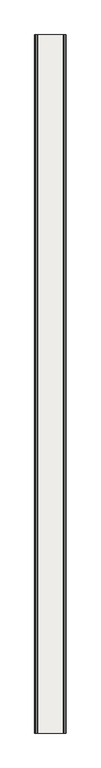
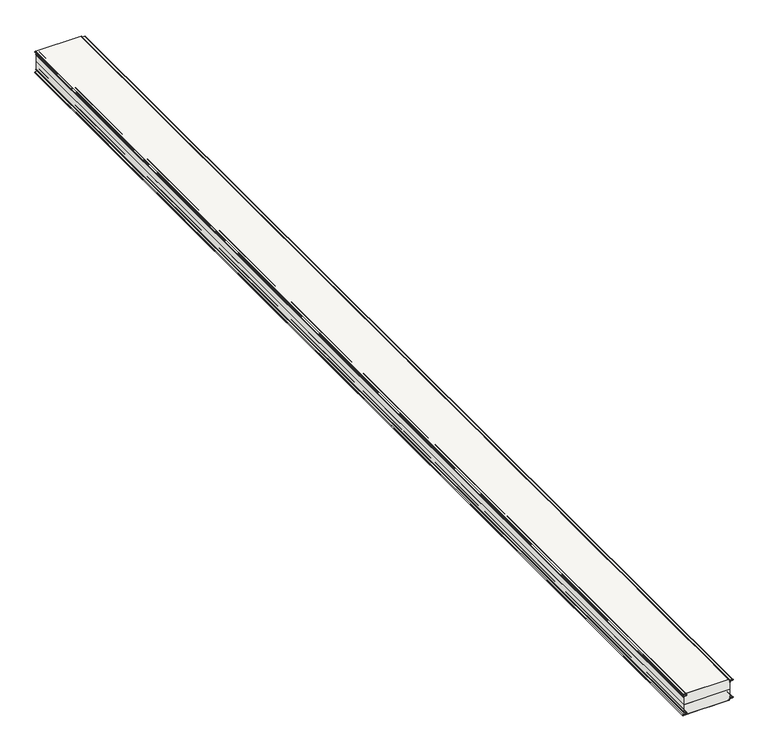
"""IFC4 building model written with IfcOpenShell, lengths in millimetres: covering geometry, Płyta warstwowa ścienna SPW-S CORE PIR (pojedynczy arkusz) : -."""

from ifc_helpers import new_model, si_unit, point, frame, frame_2d, origin, place, context, project, spatial, polyline, circle_curve, trimmed, segment, composite_curve, outline, extrude, source, transform, mapped, element, save
from ifc_brep_helpers import plane_surface, cylinder_surface, revolved_surface, advanced_brep


def covering_3d8cfdf2(model_context):
    return source(origin(), model_context, "Body", "SolidModel", [
        extrude(outline(composite_curve([segment(trimmed(circle_curve(frame_2d((-117.0000044, -287.1173519)), 1.9999956), [point((-119.0, -287.1173519))], [point((-115.0012272, -287.1871542))], True, "CARTESIAN"), True, "CONTINUOUS"), segment(polyline([(-115.0012272, -287.1871542), (-114.4480424, -271.3468067)]), True, "CONTINUOUS"), segment(trimmed(circle_curve(frame_2d((-109.950784, -271.5038623)), 4.5), [point((-114.4480424, -271.3468067))], [point((-105.4569506, -271.2683583))], False, "CARTESIAN"), True, "CONTINUOUS"), segment(polyline([(-105.4569506, -271.2683583), (-104.890434, -282.078501)]), True, "CONTINUOUS"), segment(trimmed(circle_curve(frame_2d((-103.3924895, -281.9999997)), 1.5), [point((-104.890434, -282.078501))], [point((-103.3924895, -283.4999997))], True, "CARTESIAN"), True, "CONTINUOUS"), segment(polyline([(-103.3924895, -283.4999997), (-100.8924895, -283.4999997), (-100.8924895, -284.4999997), (-103.3924895, -284.4999997)]), True, "CONTINUOUS"), segment(trimmed(circle_curve(frame_2d((-103.3924895, -281.9999997)), 2.5), [point((-103.3924895, -284.4999997))], [point((-105.8890636, -282.1308352))], False, "CARTESIAN"), True, "CONTINUOUS"), segment(polyline([(-105.8890636, -282.1308352), (-106.4555803, -271.3206925)]), True, "CONTINUOUS"), segment(trimmed(circle_curve(frame_2d((-109.950784, -271.5038623)), 3.5), [point((-106.4555803, -271.3206925))], [point((-113.4486516, -271.3817079))], True, "CARTESIAN"), True, "CONTINUOUS"), segment(polyline([(-113.4486516, -271.3817079), (-114.0018364, -287.2220554)]), True, "CONTINUOUS"), segment(trimmed(circle_curve(frame_2d((-117.0000044, -287.1173519)), 2.9999956), [point((-114.0018364, -287.2220554))], [point((-120.0, -287.1173519))], False, "CARTESIAN"), True, "CONTINUOUS"), segment(polyline([(-120.0, -287.1173519), (-120.0, -284.9999997), (-119.0, -284.9999997), (-119.0, -287.1173519)]), True, "CONTINUOUS")], self_intersect=False)), frame((0.0, -6000.0, 0.0), z_axis=(0.0, 1.0, 0.0), x_axis=(0.0, 0.0, 1.0)), (0.0, 0.0, 1.0), 6000.0),
        extrude(outline(composite_curve([segment(polyline([(-1.0, -287.1173519), (-1.0, -284.9999997), (0.0, -284.9999997), (0.0, -287.1173519)]), True, "CONTINUOUS"), segment(trimmed(circle_curve(frame_2d((-2.9999956, -287.1173519)), 2.9999956), [point((0.0, -287.1173519))], [point((-5.9981636, -287.2220554))], False, "CARTESIAN"), True, "CONTINUOUS"), segment(polyline([(-5.9981636, -287.2220554), (-6.5513484, -271.3817079)]), True, "CONTINUOUS"), segment(trimmed(circle_curve(frame_2d((-10.049216, -271.5038623)), 3.5), [point((-6.5513484, -271.3817079))], [point((-13.5444197, -271.3206925))], True, "CARTESIAN"), True, "CONTINUOUS"), segment(polyline([(-13.5444197, -271.3206925), (-14.1109364, -282.1308352)]), True, "CONTINUOUS"), segment(trimmed(circle_curve(frame_2d((-16.6075105, -281.9999997)), 2.5), [point((-14.1109364, -282.1308352))], [point((-16.6075105, -284.4999997))], False, "CARTESIAN"), True, "CONTINUOUS"), segment(polyline([(-16.6075105, -284.4999997), (-19.1075105, -284.4999997), (-19.1075105, -283.4999997), (-16.6075105, -283.4999997)]), True, "CONTINUOUS"), segment(trimmed(circle_curve(frame_2d((-16.6075105, -281.9999997)), 1.5), [point((-16.6075105, -283.4999997))], [point((-15.109566, -282.078501))], True, "CARTESIAN"), True, "CONTINUOUS"), segment(polyline([(-15.109566, -282.078501), (-14.5430494, -271.2683583)]), True, "CONTINUOUS"), segment(trimmed(circle_curve(frame_2d((-10.049216, -271.5038623)), 4.5), [point((-14.5430494, -271.2683583))], [point((-5.5519576, -271.3468067))], False, "CARTESIAN"), True, "CONTINUOUS"), segment(polyline([(-5.5519576, -271.3468067), (-4.9987728, -287.1871542)]), True, "CONTINUOUS"), segment(trimmed(circle_curve(frame_2d((-2.9999956, -287.1173519)), 1.9999956), [point((-4.9987728, -287.1871542))], [point((-1.0, -287.1173519))], True, "CARTESIAN"), True, "CONTINUOUS")], self_intersect=False)), frame((0.0, -6000.0, 0.0), z_axis=(0.0, 1.0, 0.0), x_axis=(0.0, 0.0, 1.0)), (0.0, 0.0, 1.0), 6000.0),
        advanced_brep(
        [(-43.1186621, 0.0, -119.0), (-41.1186621, 0.0, -117.0), (-41.1186621, 0.0, -114.93), (-39.1884611, 0.0, -112.9312183), (-22.5992017, 0.0, -112.3519086), (-22.43132, 0.0, -107.5379716), (-33.6570079, 0.0, -106.9496582), (-36.5, 0.0, -103.9537696), (-36.5, 0.0, -101.4537696), (-35.5, 0.0, -101.4537696), (-35.5, 0.0, -103.9537696), (-33.6046719, 0.0, -105.9510287), (-22.6550677, 0.0, -106.5248731), (-22.6835162, 0.0, -113.3501612), (-39.1535616, 0.0, -113.9306092), (-40.1186621, 0.0, -114.93), (-40.1186621, 0.0, -117.0), (-43.1186621, 0.0, -120.0), (-90.0275239, 0.0, -120.0), (-91.4098003, 0.0, -119.6), (-135.6275239, 0.0, -119.6), (-137.0098003, 0.0, -120.0), (-181.2275239, 0.0, -120.0), (-182.6098003, 0.0, -119.6), (-226.8275239, 0.0, -119.6), (-228.2098003, 0.0, -120.0), (-272.4275239, 0.0, -120.0), (-273.8098003, 0.0, -119.6), (-284.9999997, 0.0, -119.6), (-284.9999997, 0.0, -119.0), (-273.8098003, -6000.0, -119.6), (-272.4275239, -6000.0, -120.0), (-228.2098003, -6000.0, -120.0), (-226.8275239, -6000.0, -119.6), (-182.6098003, -6000.0, -119.6), (-181.2275239, -6000.0, -120.0), (-137.0098003, -6000.0, -120.0), (-135.6275239, -6000.0, -119.6), (-91.4098003, -6000.0, -119.6), (-90.0275239, -6000.0, -120.0), (-43.1186621, -6000.0, -120.0), (-40.1186621, -6000.0, -117.0), (-40.1186621, -6000.0, -114.93), (-39.1535616, -6000.0, -113.9306092), (-22.7218558, -6000.0, -113.3568014), (-22.6550677, -6000.0, -106.5248731), (-33.6046719, -6000.0, -105.9510287), (-35.5, -6000.0, -103.9537696), (-35.5, -6000.0, -101.4537696), (-36.5, -6000.0, -101.4537696), (-36.5, -6000.0, -103.9537696), (-33.6570079, -6000.0, -106.9496582), (-22.43132, -6000.0, -107.5379716), (-22.5993141, -6000.0, -112.3486915), (-39.1884611, -6000.0, -112.9312183), (-41.1186621, -6000.0, -114.93), (-41.1186621, -6000.0, -117.0), (-43.1186621, -6000.0, -119.0), (-284.9999997, -6000.0, -119.0), (-284.9999997, -6000.0, -119.6)],
        [
            (0, 1, circle_curve(frame((-43.1186621, 0.0, -117.0), z_axis=(0.0, -1.0, 0.0), x_axis=(1.0, 0.0, 0.0)), 2.0)),
            (1, 2),
            (2, 3, circle_curve(frame((-39.1186621, 0.0, -114.93), z_axis=(0.0, 1.0, 0.0), x_axis=(1.0, 0.0, 0.0)), 2.0)),
            (3, 4),
            (4, 5, circle_curve(frame((-22.6835162, 0.0, -109.9374579), z_axis=(0.0, -1.0, 0.0), x_axis=(1.0, 0.0, 0.0)), 2.4127033)),
            (5, 6),
            (6, 7, circle_curve(frame((-33.5, 0.0, -103.9537696), z_axis=(0.0, 1.0, 0.0), x_axis=(1.0, 0.0, 0.0)), 3.0)),
            (7, 8),
            (8, 9),
            (9, 10),
            (10, 11, circle_curve(frame((-33.5, 0.0, -103.9537696), z_axis=(0.0, -1.0, 0.0), x_axis=(1.0, 0.0, 0.0)), 2.0)),
            (11, 12),
            (12, 13, circle_curve(frame((-22.6835162, 0.0, -109.9374579), z_axis=(0.0, 1.0, 0.0), x_axis=(1.0, 0.0, 0.0)), 3.4127033)),
            (13, 14),
            (14, 15, circle_curve(frame((-39.1186621, 0.0, -114.93), z_axis=(0.0, -1.0, 0.0), x_axis=(1.0, 0.0, 0.0)), 1.0)),
            (15, 16),
            (16, 17, circle_curve(frame((-43.1186621, 0.0, -117.0), z_axis=(0.0, 1.0, 0.0), x_axis=(1.0, 0.0, 0.0)), 3.0)),
            (17, 18),
            (18, 19),
            (19, 20),
            (20, 21),
            (21, 22),
            (22, 23),
            (23, 24),
            (24, 25),
            (25, 26),
            (26, 27),
            (27, 28),
            (28, 29),
            (29, 0),
            (30, 31),
            (31, 32),
            (32, 33),
            (33, 34),
            (34, 35),
            (35, 36),
            (36, 37),
            (37, 38),
            (38, 39),
            (39, 40),
            (40, 41, circle_curve(frame((-43.1186621, -6000.0, -117.0), z_axis=(0.0, -1.0, 0.0), x_axis=(1.0, 0.0, 0.0)), 3.0)),
            (41, 42),
            (42, 43, circle_curve(frame((-39.1186621, -6000.0, -114.93), z_axis=(0.0, 1.0, 0.0), x_axis=(1.0, 0.0, 0.0)), 1.0)),
            (43, 44),
            (44, 45, circle_curve(frame((-22.6835162, -6000.0, -109.9374579), z_axis=(0.0, -1.0, 0.0), x_axis=(1.0, 0.0, 0.0)), 3.4127033)),
            (45, 46),
            (46, 47, circle_curve(frame((-33.5, -6000.0, -103.9537696), z_axis=(0.0, 1.0, 0.0), x_axis=(1.0, 0.0, 0.0)), 2.0)),
            (47, 48),
            (48, 49),
            (49, 50),
            (50, 51, circle_curve(frame((-33.5, -6000.0, -103.9537696), z_axis=(0.0, -1.0, 0.0), x_axis=(1.0, 0.0, 0.0)), 3.0)),
            (51, 52),
            (52, 53, circle_curve(frame((-22.6835162, -6000.0, -109.9374579), z_axis=(0.0, 1.0, 0.0), x_axis=(1.0, 0.0, 0.0)), 2.4127033)),
            (53, 54),
            (54, 55, circle_curve(frame((-39.1186621, -6000.0, -114.93), z_axis=(0.0, -1.0, 0.0), x_axis=(1.0, 0.0, 0.0)), 2.0)),
            (55, 56),
            (56, 57, circle_curve(frame((-43.1186621, -6000.0, -117.0), z_axis=(0.0, 1.0, 0.0), x_axis=(1.0, 0.0, 0.0)), 2.0)),
            (57, 58),
            (58, 59),
            (59, 30),
            (57, 0),
            (29, 58),
            (2, 55),
            (54, 3),
            (1, 56),
            (53, 4),
            (5, 52),
            (51, 6),
            (50, 7),
            (49, 8),
            (48, 9),
            (16, 41),
            (40, 17),
            (15, 42),
            (14, 43),
            (13, 44),
            (11, 46),
            (45, 12),
            (10, 47),
            (39, 18),
            (38, 19),
            (37, 20),
            (36, 21),
            (35, 22),
            (34, 23),
            (33, 24),
            (32, 25),
            (31, 26),
            (30, 27),
            (59, 28),
        ],
        [
            plane_surface(frame((-35.0, 0.0, -120.0), z_axis=(0.0, 1.0, 0.0), x_axis=(1.0, 0.0, 0.0))),
            plane_surface(frame((-35.0, -6000.0, -120.0), z_axis=(0.0, -1.0, 0.0), x_axis=(1.0, 0.0, 0.0))),
            plane_surface(frame((-1185.0, 0.0, -119.0), z_axis=(0.0, 0.0, 1.0), x_axis=(0.0, -1.0, 0.0))),
            cylinder_surface(frame((-39.1186621, 0.0, -114.93), z_axis=(0.0, 1.0, 0.0), x_axis=(1.0, 0.0, 0.0)), 2.0),
            plane_surface(frame((-41.1186621, 0.0, -117.0), z_axis=(-1.0, 0.0, 0.0), x_axis=(0.0, -1.0, 0.0))),
            revolved_surface(polyline([(-41.1186621, -6000.0, -117.0), (-41.1186621, 0.0, -117.0)]), (-43.1186621, 0.0, -117.0), (0.0, -1.0, 0.0)),
            plane_surface(frame((-39.1884611, 0.0, -112.9312183), z_axis=(-0.03489949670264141, 0.0, 0.9993908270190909), x_axis=(0.0, -1.0, 0.0))),
            plane_surface(frame((-22.43132, 0.0, -107.5379716), z_axis=(-0.052335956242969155, 0.0, -0.9986295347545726), x_axis=(0.0, -1.0, 0.0))),
            cylinder_surface(frame((-33.5, 0.0, -103.9537696), z_axis=(0.0, 1.0, 0.0), x_axis=(1.0, 0.0, 0.0)), 3.0),
            plane_surface(frame((-36.5, 0.0, -103.9537696), z_axis=(-1.0, 0.0, 0.0), x_axis=(0.0, -1.0, 0.0))),
            plane_surface(frame((-36.5, 0.0, -101.4537696), z_axis=(0.0, 0.0, 1.0), x_axis=(0.0, -1.0, 0.0))),
            cylinder_surface(frame((-43.1186621, 0.0, -117.0), z_axis=(0.0, 1.0, 0.0), x_axis=(1.0, 0.0, 0.0)), 3.0),
            plane_surface(frame((-40.1186621, 0.0, -114.93), z_axis=(1.0, 0.0, 0.0), x_axis=(0.0, -1.0, 0.0))),
            revolved_surface(polyline([(-38.1186621, -6000.0, -114.93), (-38.1186621, 0.0, -114.93)]), (-39.1186621, 0.0, -114.93), (0.0, -1.0, 0.0)),
            plane_surface(frame((-22.7218558, 0.0, -113.3568014), z_axis=(0.0348994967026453, 0.0, -0.9993908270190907), x_axis=(0.0, -1.0, 0.0))),
            plane_surface(frame((-33.6046719, 0.0, -105.9510287), z_axis=(0.05233595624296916, 0.0, 0.9986295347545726), x_axis=(0.0, -1.0, 0.0))),
            revolved_surface(polyline([(-31.5, -6000.0, -103.9537696), (-31.5, 0.0, -103.9537696)]), (-33.5, 0.0, -103.9537696), (0.0, -1.0, 0.0)),
            cylinder_surface(frame((-22.6835162, 0.0, -109.9374579), z_axis=(0.0, 1.0, 0.0), x_axis=(1.0, 0.0, 0.0)), 3.4127033),
            revolved_surface(polyline([(-20.2708129, -6000.0, -109.9374579), (-20.2708129, 0.0, -109.9374579)]), (-22.6835162, 0.0, -109.9374579), (0.0, -1.0, 0.0)),
            plane_surface(frame((-35.5, 0.0, -101.4537696), z_axis=(1.0, 0.0, 0.0), x_axis=(0.0, -1.0, 0.0))),
            plane_surface(frame((-43.1186621, 0.0, -120.0), z_axis=(0.0, 0.0, -1.0), x_axis=(0.0, -1.0, 0.0))),
            plane_surface(frame((-90.0275239, 0.0, -120.0), z_axis=(-0.27797301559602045, 0.0, -0.9605888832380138), x_axis=(0.0, -1.0, 0.0))),
            plane_surface(frame((-91.4098003, 0.0, -119.6), z_axis=(0.0, 0.0, -1.0), x_axis=(0.0, -1.0, 0.0))),
            plane_surface(frame((-135.6275239, 0.0, -119.6), z_axis=(0.27797301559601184, 0.0, -0.9605888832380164), x_axis=(0.0, -1.0, 0.0))),
            plane_surface(frame((-137.0098003, 0.0, -120.0), z_axis=(0.0, 0.0, -1.0), x_axis=(0.0, -1.0, 0.0))),
            plane_surface(frame((-181.2275239, 0.0, -120.0), z_axis=(-0.27797301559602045, 0.0, -0.9605888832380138), x_axis=(0.0, -1.0, 0.0))),
            plane_surface(frame((-182.6098003, 0.0, -119.6), z_axis=(0.0, 0.0, -1.0), x_axis=(0.0, -1.0, 0.0))),
            plane_surface(frame((-226.8275239, 0.0, -119.6), z_axis=(0.27797301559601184, 0.0, -0.9605888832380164), x_axis=(0.0, -1.0, 0.0))),
            plane_surface(frame((-228.2098003, 0.0, -120.0), z_axis=(0.0, 0.0, -1.0), x_axis=(0.0, -1.0, 0.0))),
            plane_surface(frame((-272.4275239, 0.0, -120.0), z_axis=(-0.27797301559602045, 0.0, -0.9605888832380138), x_axis=(0.0, -1.0, 0.0))),
            plane_surface(frame((-273.8098003, 0.0, -119.6), z_axis=(0.0, 0.0, -1.0), x_axis=(0.0, -1.0, 0.0))),
            plane_surface(frame((-284.9999997, -6000.0, -121.875), z_axis=(-1.0, 0.0, 0.0), x_axis=(0.0, 1.0, 0.0))),
        ],
        [
            (0, [[1, 2, 3, 4, 5, 6, 7, 8, 9, 10, 11, 12, 13, 14, 15, 16, 17, 18, 19, 20, 21, 22, 23, 24, 25, 26, 27, 28, 29, 30]]),
            (1, [[31, 32, 33, 34, 35, 36, 37, 38, 39, 40, 41, 42, 43, 44, 45, 46, 47, 48, 49, 50, 51, 52, 53, 54, 55, 56, 57, 58, 59, 60]]),
            (2, [[61, -30, 62, -58]]),
            (3, [[-3, 63, -55, 64]]),
            (4, [[-2, 65, -56, -63]]),
            (5, [[-1, -61, -57, -65]]),
            (6, [[-4, -64, -54, 66]]),
            (7, [[-6, 67, -52, 68]]),
            (8, [[-7, -68, -51, 69]]),
            (9, [[-8, -69, -50, 70]]),
            (10, [[-9, -70, -49, 71]]),
            (11, [[-17, 72, -41, 73]]),
            (12, [[-16, 74, -42, -72]]),
            (13, [[-15, 75, -43, -74]]),
            (14, [[-14, 76, -44, -75]]),
            (15, [[-12, 77, -46, 78]]),
            (16, [[-11, 79, -47, -77]]),
            (17, [[-13, -78, -45, -76]]),
            (18, [[-5, -66, -53, -67]]),
            (19, [[-10, -71, -48, -79]]),
            (20, [[-18, -73, -40, 80]]),
            (21, [[-19, -80, -39, 81]]),
            (22, [[-20, -81, -38, 82]]),
            (23, [[-21, -82, -37, 83]]),
            (24, [[-22, -83, -36, 84]]),
            (25, [[-23, -84, -35, 85]]),
            (26, [[-24, -85, -34, 86]]),
            (27, [[-25, -86, -33, 87]]),
            (28, [[-26, -87, -32, 88]]),
            (29, [[-27, -88, -31, 89]]),
            (30, [[-89, -60, 90, -28]]),
            (31, [[-29, -90, -59, -62]]),
        ],
    ),
        advanced_brep(
        [(-284.9999997, 0.0, -1.0), (-284.9999997, 0.0, 0.0), (-43.1186621, 0.0, 0.0), (-40.1186621, 0.0, -3.0), (-40.1186621, 0.0, -5.07), (-39.1535616, 0.0, -6.0693908), (-22.7218558, 0.0, -6.6431986), (-22.6835162, 0.0, -13.4752455), (-33.6046719, 0.0, -14.0489713), (-35.5, 0.0, -16.0462304), (-35.5, 0.0, -18.5462304), (-36.5, 0.0, -18.5462304), (-36.5, 0.0, -16.0462304), (-33.6570079, 0.0, -13.0503418), (-22.43132, 0.0, -12.4620284), (-22.5993141, 0.0, -7.6513085), (-39.1884611, 0.0, -7.0687817), (-41.1186621, 0.0, -5.07), (-41.1186621, 0.0, -3.0), (-43.1186621, 0.0, -1.0), (-284.9999997, -6000.0, -1.0), (-43.1186621, -6000.0, -1.0), (-41.1186621, -6000.0, -3.0), (-41.1186621, -6000.0, -5.07), (-39.1884611, -6000.0, -7.0687817), (-22.5992017, -6000.0, -7.6480914), (-22.43132, -6000.0, -12.4620284), (-33.6570079, -6000.0, -13.0503418), (-36.5, -6000.0, -16.0462304), (-36.5, -6000.0, -18.5462304), (-35.5, -6000.0, -18.5462304), (-35.5, -6000.0, -16.0462304), (-33.6046719, -6000.0, -14.0489713), (-22.6071775, -6000.0, -13.4726171), (-22.6835162, -6000.0, -6.6498388), (-39.1535616, -6000.0, -6.0693908), (-40.1186621, -6000.0, -5.07), (-40.1186621, -6000.0, -3.0), (-43.1186621, -6000.0, 0.0), (-284.9999997, -6000.0, 0.0)],
        [
            (0, 1),
            (1, 2),
            (2, 3, circle_curve(frame((-43.1186621, 0.0, -3.0), z_axis=(0.0, 1.0, 0.0), x_axis=(1.0, 0.0, 0.0)), 3.0)),
            (3, 4),
            (4, 5, circle_curve(frame((-39.1186621, 0.0, -5.07), z_axis=(0.0, -1.0, 0.0), x_axis=(1.0, 0.0, 0.0)), 1.0)),
            (5, 6),
            (6, 7, circle_curve(frame((-22.6835162, 0.0, -10.0625421), z_axis=(0.0, 1.0, 0.0), x_axis=(1.0, 0.0, 0.0)), 3.4127033)),
            (7, 8),
            (8, 9, circle_curve(frame((-33.5, 0.0, -16.0462304), z_axis=(0.0, -1.0, 0.0), x_axis=(1.0, 0.0, 0.0)), 2.0)),
            (9, 10),
            (10, 11),
            (11, 12),
            (12, 13, circle_curve(frame((-33.5, 0.0, -16.0462304), z_axis=(0.0, 1.0, 0.0), x_axis=(1.0, 0.0, 0.0)), 3.0)),
            (13, 14),
            (14, 15, circle_curve(frame((-22.6835162, 0.0, -10.0625421), z_axis=(0.0, -1.0, 0.0), x_axis=(1.0, 0.0, 0.0)), 2.4127033)),
            (15, 16),
            (16, 17, circle_curve(frame((-39.1186621, 0.0, -5.07), z_axis=(0.0, 1.0, 0.0), x_axis=(1.0, 0.0, 0.0)), 2.0)),
            (17, 18),
            (18, 19, circle_curve(frame((-43.1186621, 0.0, -3.0), z_axis=(0.0, -1.0, 0.0), x_axis=(1.0, 0.0, 0.0)), 2.0)),
            (19, 0),
            (20, 21),
            (21, 22, circle_curve(frame((-43.1186621, -6000.0, -3.0), z_axis=(0.0, 1.0, 0.0), x_axis=(1.0, 0.0, 0.0)), 2.0)),
            (22, 23),
            (23, 24, circle_curve(frame((-39.1186621, -6000.0, -5.07), z_axis=(0.0, -1.0, 0.0), x_axis=(1.0, 0.0, 0.0)), 2.0)),
            (24, 25),
            (25, 26, circle_curve(frame((-22.6835162, -6000.0, -10.0625421), z_axis=(0.0, 1.0, 0.0), x_axis=(1.0, 0.0, 0.0)), 2.4127033)),
            (26, 27),
            (27, 28, circle_curve(frame((-33.5, -6000.0, -16.0462304), z_axis=(0.0, -1.0, 0.0), x_axis=(1.0, 0.0, 0.0)), 3.0)),
            (28, 29),
            (29, 30),
            (30, 31),
            (31, 32, circle_curve(frame((-33.5, -6000.0, -16.0462304), z_axis=(0.0, 1.0, 0.0), x_axis=(1.0, 0.0, 0.0)), 2.0)),
            (32, 33),
            (33, 34, circle_curve(frame((-22.6835162, -6000.0, -10.0625421), z_axis=(0.0, -1.0, 0.0), x_axis=(1.0, 0.0, 0.0)), 3.4127033)),
            (34, 35),
            (35, 36, circle_curve(frame((-39.1186621, -6000.0, -5.07), z_axis=(0.0, 1.0, 0.0), x_axis=(1.0, 0.0, 0.0)), 1.0)),
            (36, 37),
            (37, 38, circle_curve(frame((-43.1186621, -6000.0, -3.0), z_axis=(0.0, -1.0, 0.0), x_axis=(1.0, 0.0, 0.0)), 3.0)),
            (38, 39),
            (39, 20),
            (19, 21),
            (20, 0),
            (1, 39),
            (38, 2),
            (16, 24),
            (23, 17),
            (22, 18),
            (15, 25),
            (13, 27),
            (26, 14),
            (10, 30),
            (29, 11),
            (12, 28),
            (4, 36),
            (35, 5),
            (9, 31),
            (8, 32),
            (7, 33),
            (6, 34),
            (37, 3),
        ],
        [
            plane_surface(frame((-35.0, 0.0, -1.0), z_axis=(0.0, 1.0, 0.0), x_axis=(1.0, 0.0, 0.0))),
            plane_surface(frame((-35.0, -6000.0, -1.0), z_axis=(0.0, -1.0, 0.0), x_axis=(1.0, 0.0, 0.0))),
            plane_surface(frame((-43.1186621, 0.0, -1.0), z_axis=(0.0, 0.0, -1.0), x_axis=(0.0, -1.0, 0.0))),
            plane_surface(frame((-284.9999997, 0.0, 0.0), z_axis=(0.0, 0.0, 1.0), x_axis=(0.0, -1.0, 0.0))),
            cylinder_surface(frame((-39.1186621, 0.0, -5.07), z_axis=(0.0, 1.0, 0.0), x_axis=(1.0, 0.0, 0.0)), 2.0),
            plane_surface(frame((-41.1186621, 0.0, -5.07), z_axis=(-1.0, 0.0, 0.0), x_axis=(0.0, -1.0, 0.0))),
            revolved_surface(polyline([(-41.1186621, -6000.0, -3.0), (-41.1186621, 0.0, -3.0)]), (-43.1186621, 0.0, -3.0), (0.0, -1.0, 0.0)),
            plane_surface(frame((-22.5992017, 0.0, -7.6480914), z_axis=(-0.034899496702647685, 0.0, -0.9993908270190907), x_axis=(0.0, -1.0, 0.0))),
            plane_surface(frame((-33.6570079, 0.0, -13.0503418), z_axis=(-0.05233595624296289, 0.0, 0.998629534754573), x_axis=(0.0, -1.0, 0.0))),
            plane_surface(frame((-35.5, 0.0, -18.5462304), z_axis=(0.0, 0.0, -1.0), x_axis=(0.0, -1.0, 0.0))),
            cylinder_surface(frame((-33.5, 0.0, -16.0462304), z_axis=(0.0, 1.0, 0.0), x_axis=(1.0, 0.0, 0.0)), 3.0),
            plane_surface(frame((-36.5, 0.0, -18.5462304), z_axis=(-1.0, 0.0, 0.0), x_axis=(0.0, -1.0, 0.0))),
            revolved_surface(polyline([(-38.1186621, -6000.0, -5.07), (-38.1186621, 0.0, -5.07)]), (-39.1186621, 0.0, -5.07), (0.0, -1.0, 0.0)),
            plane_surface(frame((-35.5, 0.0, -16.0462304), z_axis=(1.0, 0.0, 0.0), x_axis=(0.0, -1.0, 0.0))),
            revolved_surface(polyline([(-31.5, -6000.0, -16.0462304), (-31.5, 0.0, -16.0462304)]), (-33.5, 0.0, -16.0462304), (0.0, -1.0, 0.0)),
            plane_surface(frame((-22.6071775, 0.0, -13.4726171), z_axis=(0.052335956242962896, 0.0, -0.998629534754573), x_axis=(0.0, -1.0, 0.0))),
            revolved_surface(polyline([(-20.2708129, -6000.0, -10.0625421), (-20.2708129, 0.0, -10.0625421)]), (-22.6835162, 0.0, -10.0625421), (0.0, -1.0, 0.0)),
            cylinder_surface(frame((-22.6835162, 0.0, -10.0625421), z_axis=(0.0, 1.0, 0.0), x_axis=(1.0, 0.0, 0.0)), 3.4127033),
            plane_surface(frame((-284.9999997, 0.0, -1.0), z_axis=(-1.0, 0.0, 0.0), x_axis=(0.0, -1.0, 0.0))),
            cylinder_surface(frame((-43.1186621, 0.0, -3.0), z_axis=(0.0, 1.0, 0.0), x_axis=(1.0, 0.0, 0.0)), 3.0),
            plane_surface(frame((-40.1186621, 0.0, -3.0), z_axis=(1.0, 0.0, 0.0), x_axis=(0.0, -1.0, 0.0))),
            plane_surface(frame((-39.1535616, 0.0, -6.0693908), z_axis=(0.03489949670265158, 0.0, 0.9993908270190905), x_axis=(0.0, -1.0, 0.0))),
        ],
        [
            (0, [[1, 2, 3, 4, 5, 6, 7, 8, 9, 10, 11, 12, 13, 14, 15, 16, 17, 18, 19, 20]]),
            (1, [[21, 22, 23, 24, 25, 26, 27, 28, 29, 30, 31, 32, 33, 34, 35, 36, 37, 38, 39, 40]]),
            (2, [[-20, 41, -21, 42]]),
            (3, [[-2, 43, -39, 44]]),
            (4, [[-17, 45, -24, 46]]),
            (5, [[-18, -46, -23, 47]]),
            (6, [[-19, -47, -22, -41]]),
            (7, [[-16, 48, -25, -45]]),
            (8, [[-14, 49, -27, 50]]),
            (9, [[-11, 51, -30, 52]]),
            (10, [[-13, 53, -28, -49]]),
            (11, [[-12, -52, -29, -53]]),
            (12, [[-5, 54, -36, 55]]),
            (13, [[-10, 56, -31, -51]]),
            (14, [[-9, 57, -32, -56]]),
            (15, [[-8, 58, -33, -57]]),
            (16, [[-15, -50, -26, -48]]),
            (17, [[-7, 59, -34, -58]]),
            (18, [[-1, -42, -40, -43]]),
            (19, [[-3, -44, -38, 60]]),
            (20, [[-4, -60, -37, -54]]),
            (21, [[-6, -55, -35, -59]]),
        ],
    ),
        advanced_brep(
        [(-287.1871542, -6000.0, -115.0012272), (-287.1871542, 0.0, -115.0012272), (-287.1173519, 0.0, -119.0), (-287.1173519, -6000.0, -119.0), (-271.3468067, -6000.0, -114.4480424), (-271.3468067, 0.0, -114.4480424), (-271.2683583, -6000.0, -105.4569506), (-271.2683583, 0.0, -105.4569506), (-282.078501, -6000.0, -104.890434), (-282.078501, 0.0, -104.890434), (-283.4999997, -6000.0, -103.3924895), (-283.4999997, 0.0, -103.3924895), (-283.4999997, -6000.0, -60.0), (-283.4999997, 0.0, -60.0), (-284.9999997, -6000.0, -119.0), (-44.6192414, -6000.0, -119.0), (-43.1186621, -6000.0, -119.0), (-41.1186621, -6000.0, -117.0), (-41.1186621, -6000.0, -114.93), (-39.1884611, -6000.0, -112.9312183), (-22.5992017, -6000.0, -112.3519086), (-22.1786572, -6000.0, -107.5781667), (-33.6570078, -6000.0, -106.9496582), (-36.5, -6000.0, -103.9537696), (-36.5, -6000.0, -60.0), (-284.9999997, 0.0, -119.0), (-36.5, 0.0, -60.0), (-36.5, 0.0, -103.9537696), (-33.6570078, 0.0, -106.9496582), (-22.1786572, 0.0, -107.5781667), (-22.5993141, 0.0, -112.3486915), (-39.1884611, 0.0, -112.9312183), (-41.1186621, 0.0, -114.93), (-41.1186621, 0.0, -117.0), (-43.1186621, 0.0, -119.0), (-44.6192414, 0.0, -119.0)],
        [
            (0, 1),
            (1, 2, circle_curve(frame((-287.1173519, 0.0, -117.0000044), z_axis=(0.0, -1.0, 0.0), x_axis=(-1.0, 0.0, 0.0)), 1.9999956)),
            (2, 3),
            (3, 0, circle_curve(frame((-287.1173519, -6000.0, -117.0000044), z_axis=(0.0, 1.0, 0.0), x_axis=(-1.0, 0.0, 0.0)), 1.9999956)),
            (0, 4),
            (4, 5),
            (5, 1),
            (4, 6, circle_curve(frame((-271.5038623, -6000.0, -109.950784), z_axis=(0.0, -1.0, 0.0), x_axis=(-1.0, 0.0, 0.0)), 4.5)),
            (6, 7),
            (7, 5, circle_curve(frame((-271.5038623, 0.0, -109.950784), z_axis=(0.0, 1.0, 0.0), x_axis=(-1.0, 0.0, 0.0)), 4.5)),
            (6, 8),
            (8, 9),
            (9, 7),
            (8, 10, circle_curve(frame((-281.9999997, -6000.0, -103.3924895), z_axis=(0.0, 1.0, 0.0), x_axis=(-1.0, 0.0, 0.0)), 1.5)),
            (10, 11),
            (11, 9, circle_curve(frame((-281.9999997, 0.0, -103.3924895), z_axis=(0.0, -1.0, 0.0), x_axis=(-1.0, 0.0, 0.0)), 1.5)),
            (10, 12),
            (12, 13),
            (13, 11),
            (3, 14),
            (14, 15),
            (15, 16),
            (16, 17, circle_curve(frame((-43.1186621, -6000.0, -117.0), z_axis=(0.0, -1.0, 0.0), x_axis=(-1.0, 0.0, 0.0)), 2.0)),
            (17, 18),
            (18, 19, circle_curve(frame((-39.1186621, -6000.0, -114.93), z_axis=(0.0, 1.0, 0.0), x_axis=(-1.0, 0.0, 0.0)), 2.0)),
            (19, 20),
            (20, 21, circle_curve(frame((-22.6835162, -6000.0, -109.9374579), z_axis=(0.0, -1.0, 0.0), x_axis=(-1.0, 0.0, 0.0)), 2.4127033)),
            (21, 22),
            (22, 23, circle_curve(frame((-33.5, -6000.0, -103.9537696), z_axis=(0.0, 1.0, 0.0), x_axis=(-1.0, 0.0, 0.0)), 3.0)),
            (23, 24),
            (24, 12),
            (25, 2),
            (13, 26),
            (26, 27),
            (27, 28, circle_curve(frame((-33.5, 0.0, -103.9537696), z_axis=(0.0, -1.0, 0.0), x_axis=(-1.0, 0.0, 0.0)), 3.0)),
            (28, 29),
            (29, 30, circle_curve(frame((-22.6835162, 0.0, -109.9374579), z_axis=(0.0, 1.0, 0.0), x_axis=(-1.0, 0.0, 0.0)), 2.4127033)),
            (30, 31),
            (31, 32, circle_curve(frame((-39.1186621, 0.0, -114.93), z_axis=(0.0, -1.0, 0.0), x_axis=(-1.0, 0.0, 0.0)), 2.0)),
            (32, 33),
            (33, 34, circle_curve(frame((-43.1186621, 0.0, -117.0), z_axis=(0.0, 1.0, 0.0), x_axis=(-1.0, 0.0, 0.0)), 2.0)),
            (34, 35),
            (35, 25),
            (24, 26),
            (34, 16),
            (23, 27),
            (22, 28),
            (21, 29),
            (20, 30),
            (19, 31),
            (18, 32),
            (17, 33),
        ],
        [
            cylinder_surface(frame((-287.1173519, -6000.0, -117.0000044), z_axis=(0.0, 1.0, 0.0), x_axis=(-1.0, 0.0, 0.0)), 1.9999956),
            plane_surface(frame((-287.1871542, -6000.0, -115.0012272), z_axis=(-0.034901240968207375, 0.0, 0.9993907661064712), x_axis=(0.0, 1.0, 0.0))),
            revolved_surface(polyline([(-276.0038623, -6000.0, -109.950784), (-276.0038623, 0.0, -109.950784)]), (-271.5038623, -6000.0, -109.950784), (0.0, -1.0, 0.0)),
            plane_surface(frame((-271.2683583, -6000.0, -105.4569506), z_axis=(-0.05233421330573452, 0.0, -0.9986296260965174), x_axis=(0.0, 1.0, 0.0))),
            cylinder_surface(frame((-281.9999997, -6000.0, -103.3924895), z_axis=(0.0, 1.0, 0.0), x_axis=(-1.0, 0.0, 0.0)), 1.5),
            plane_surface(frame((-283.4999997, -6000.0, -103.3924895), z_axis=(-1.0, 0.0, 0.0), x_axis=(0.0, 1.0, 0.0))),
            plane_surface(frame((-314.9999997, -6000.0, -60.0), z_axis=(0.0, -1.0, 0.0), x_axis=(-1.0, 0.0, 0.0))),
            plane_surface(frame((-314.9999997, 0.0, -60.0), z_axis=(0.0, 1.0, 0.0), x_axis=(1.0, 0.0, 0.0))),
            plane_surface(frame((15.0, -6000.0, -60.0), z_axis=(0.0, 0.0, 1.0), x_axis=(0.0, 1.0, 0.0))),
            plane_surface(frame((-314.9999997, -6000.0, -119.0), z_axis=(0.0, 0.0, -1.0), x_axis=(0.0, 1.0, 0.0))),
            plane_surface(frame((-36.5, -6000.0, -16.0462304), z_axis=(1.0, 0.0, 0.0), x_axis=(0.0, 1.0, 0.0))),
            revolved_surface(polyline([(-36.5, -6000.0, -103.9537696), (-36.5, 0.0, -103.9537696)]), (-33.5, -6000.0, -103.9537696), (0.0, -1.0, 0.0)),
            plane_surface(frame((-33.6570078, -6000.0, -106.9496582), z_axis=(0.05467409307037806, 0.0, 0.9985042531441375), x_axis=(0.0, 1.0, 0.0))),
            cylinder_surface(frame((-22.6835162, -6000.0, -109.9374579), z_axis=(0.0, 1.0, 0.0), x_axis=(-1.0, 0.0, 0.0)), 2.4127033),
            plane_surface(frame((-22.5992017, -6000.0, -112.3519086), z_axis=(0.034899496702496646, 0.0, -0.9993908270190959), x_axis=(0.0, 1.0, 0.0))),
            revolved_surface(polyline([(-41.1186621, -6000.0, -114.93), (-41.1186621, 0.0, -114.93)]), (-39.1186621, -6000.0, -114.93), (0.0, -1.0, 0.0)),
            plane_surface(frame((-41.1186621, -6000.0, -114.93), z_axis=(1.0, 0.0, 0.0), x_axis=(0.0, 1.0, 0.0))),
            cylinder_surface(frame((-43.1186621, -6000.0, -117.0), z_axis=(0.0, 1.0, 0.0), x_axis=(-1.0, 0.0, 0.0)), 2.0),
        ],
        [
            (0, [[1, 2, 3, 4]]),
            (1, [[-1, 5, 6, 7]]),
            (2, [[-6, 8, 9, 10]]),
            (3, [[-9, 11, 12, 13]]),
            (4, [[-12, 14, 15, 16]]),
            (5, [[-15, 17, 18, 19]]),
            (6, [[20, 21, 22, 23, 24, 25, 26, 27, 28, 29, 30, 31, -17, -14, -11, -8, -5, -4]]),
            (7, [[32, -2, -7, -10, -13, -16, -19, 33, 34, 35, 36, 37, 38, 39, 40, 41, 42, 43]]),
            (8, [[-18, -31, 44, -33]]),
            (9, [[-20, -3, -32, -43, -42, 45, -22, -21]]),
            (10, [[46, -34, -44, -30]]),
            (11, [[-46, -29, 47, -35]]),
            (12, [[-47, -28, 48, -36]]),
            (13, [[-48, -27, 49, -37]]),
            (14, [[-49, -26, 50, -38]]),
            (15, [[-50, -25, 51, -39]]),
            (16, [[-51, -24, 52, -40]]),
            (17, [[-52, -23, -45, -41]]),
        ],
    ),
        advanced_brep(
        [(-284.9999997, -6000.0, -1.0), (-287.1173519, -6000.0, -1.0), (-287.1871542, -6000.0, -4.9987728), (-271.3468067, -6000.0, -5.5519576), (-271.2683583, -6000.0, -14.5430494), (-282.078501, -6000.0, -15.109566), (-283.4999997, -6000.0, -16.6075105), (-283.4999997, -6000.0, -60.0), (-36.5, -6000.0, -60.0), (-36.5, -6000.0, -16.0462304), (-33.6570079, -6000.0, -13.0503418), (-22.43132, -6000.0, -12.4620284), (-22.5993141, -6000.0, -7.6513085), (-39.1884611, -6000.0, -7.0687817), (-41.1186621, -6000.0, -5.07), (-41.1186621, -6000.0, -3.0), (-43.1186621, -6000.0, -1.0), (-287.1173519, 0.0, -1.0), (-284.9999997, 0.0, -1.0), (-43.1186621, 0.0, -1.0), (-41.1186621, 0.0, -3.0), (-41.1186621, 0.0, -5.07), (-39.1884611, 0.0, -7.0687817), (-22.5992017, 0.0, -7.6480914), (-22.43132, 0.0, -12.4620284), (-33.6570079, 0.0, -13.0503418), (-36.5, 0.0, -16.0462304), (-36.5, 0.0, -60.0), (-283.4999997, 0.0, -60.0), (-283.4999997, 0.0, -16.6075105), (-282.078501, 0.0, -15.109566), (-271.2683583, 0.0, -14.5430494), (-271.3468067, 0.0, -5.5519576), (-287.1871542, 0.0, -4.9987728)],
        [
            (0, 1),
            (1, 2, circle_curve(frame((-287.1173519, -6000.0, -2.9999956), z_axis=(0.0, -1.0, 0.0), x_axis=(-1.0, 0.0, 0.0)), 1.9999956)),
            (2, 3),
            (3, 4, circle_curve(frame((-271.5038623, -6000.0, -10.049216), z_axis=(0.0, 1.0, 0.0), x_axis=(-1.0, 0.0, 0.0)), 4.5)),
            (4, 5),
            (5, 6, circle_curve(frame((-281.9999997, -6000.0, -16.6075105), z_axis=(0.0, -1.0, 0.0), x_axis=(-1.0, 0.0, 0.0)), 1.5)),
            (6, 7),
            (7, 8),
            (8, 9),
            (9, 10, circle_curve(frame((-33.5, -6000.0, -16.0462304), z_axis=(0.0, 1.0, 0.0), x_axis=(-1.0, 0.0, 0.0)), 3.0)),
            (10, 11),
            (11, 12, circle_curve(frame((-22.6835162, -6000.0, -10.0625421), z_axis=(0.0, -1.0, 0.0), x_axis=(-1.0, 0.0, 0.0)), 2.4127033)),
            (12, 13),
            (13, 14, circle_curve(frame((-39.1186621, -6000.0, -5.07), z_axis=(0.0, 1.0, 0.0), x_axis=(-1.0, 0.0, 0.0)), 2.0)),
            (14, 15),
            (15, 16, circle_curve(frame((-43.1186621, -6000.0, -3.0), z_axis=(0.0, -1.0, 0.0), x_axis=(-1.0, 0.0, 0.0)), 2.0)),
            (16, 0),
            (17, 18),
            (18, 19),
            (19, 20, circle_curve(frame((-43.1186621, 0.0, -3.0), z_axis=(0.0, 1.0, 0.0), x_axis=(-1.0, 0.0, 0.0)), 2.0)),
            (20, 21),
            (21, 22, circle_curve(frame((-39.1186621, 0.0, -5.07), z_axis=(0.0, -1.0, 0.0), x_axis=(-1.0, 0.0, 0.0)), 2.0)),
            (22, 23),
            (23, 24, circle_curve(frame((-22.6835162, 0.0, -10.0625421), z_axis=(0.0, 1.0, 0.0), x_axis=(-1.0, 0.0, 0.0)), 2.4127033)),
            (24, 25),
            (25, 26, circle_curve(frame((-33.5, 0.0, -16.0462304), z_axis=(0.0, -1.0, 0.0), x_axis=(-1.0, 0.0, 0.0)), 3.0)),
            (26, 27),
            (27, 28),
            (28, 29),
            (29, 30, circle_curve(frame((-281.9999997, 0.0, -16.6075105), z_axis=(0.0, 1.0, 0.0), x_axis=(-1.0, 0.0, 0.0)), 1.5)),
            (30, 31),
            (31, 32, circle_curve(frame((-271.5038623, 0.0, -10.049216), z_axis=(0.0, -1.0, 0.0), x_axis=(-1.0, 0.0, 0.0)), 4.5)),
            (32, 33),
            (33, 17, circle_curve(frame((-287.1173519, 0.0, -2.9999956), z_axis=(0.0, 1.0, 0.0), x_axis=(-1.0, 0.0, 0.0)), 1.9999956)),
            (16, 19),
            (17, 1),
            (7, 28),
            (27, 8),
            (6, 29),
            (5, 30),
            (4, 31),
            (3, 32),
            (2, 33),
            (15, 20),
            (14, 21),
            (13, 22),
            (12, 23),
            (11, 24),
            (10, 25),
            (9, 26),
        ],
        [
            plane_surface(frame((-314.9999997, -6000.0, -1.0), z_axis=(0.0, -1.0, 0.0), x_axis=(-1.0, 0.0, 0.0))),
            plane_surface(frame((-314.9999997, 0.0, -1.0), z_axis=(0.0, 1.0, 0.0), x_axis=(1.0, 0.0, 0.0))),
            plane_surface(frame((15.0, -6000.0, -1.0), z_axis=(0.0, 0.0, 1.0), x_axis=(0.0, 1.0, 0.0))),
            plane_surface(frame((-314.9999997, -6000.0, -60.0), z_axis=(0.0, 0.0, -1.0), x_axis=(0.0, 1.0, 0.0))),
            plane_surface(frame((-283.4999997, -6000.0, -103.3924895), z_axis=(-1.0, 0.0, 0.0), x_axis=(0.0, 1.0, 0.0))),
            cylinder_surface(frame((-281.9999997, -6000.0, -16.6075105), z_axis=(0.0, 1.0, 0.0), x_axis=(-1.0, 0.0, 0.0)), 1.5),
            plane_surface(frame((-282.078501, -6000.0, -15.109566), z_axis=(-0.05233421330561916, 0.0, 0.9986296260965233), x_axis=(0.0, 1.0, 0.0))),
            revolved_surface(polyline([(-276.0038623, -6000.0, -10.049216), (-276.0038623, 0.0, -10.049216)]), (-271.5038623, -6000.0, -10.049216), (0.0, -1.0, 0.0)),
            plane_surface(frame((-271.3468067, -6000.0, -5.5519576), z_axis=(-0.03490124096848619, 0.0, -0.9993907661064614), x_axis=(0.0, 1.0, 0.0))),
            cylinder_surface(frame((-287.1173519, -6000.0, -2.9999956), z_axis=(0.0, 1.0, 0.0), x_axis=(-1.0, 0.0, 0.0)), 1.9999956),
            cylinder_surface(frame((-43.1186621, -6000.0, -3.0), z_axis=(0.0, 1.0, 0.0), x_axis=(-1.0, 0.0, 0.0)), 2.0),
            plane_surface(frame((-41.1186621, -6000.0, -3.0), z_axis=(1.0, 0.0, 0.0), x_axis=(0.0, 1.0, 0.0))),
            revolved_surface(polyline([(-41.1186621, -6000.0, -5.07), (-41.1186621, 0.0, -5.07)]), (-39.1186621, -6000.0, -5.07), (0.0, -1.0, 0.0)),
            plane_surface(frame((-39.1884611, -6000.0, -7.0687817), z_axis=(0.03489949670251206, 0.0, 0.9993908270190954), x_axis=(0.0, 1.0, 0.0))),
            cylinder_surface(frame((-22.6835162, -6000.0, -10.0625421), z_axis=(0.0, 1.0, 0.0), x_axis=(-1.0, 0.0, 0.0)), 2.4127033),
            plane_surface(frame((-22.43132, -6000.0, -12.4620284), z_axis=(0.05233595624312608, 0.0, -0.9986295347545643), x_axis=(0.0, 1.0, 0.0))),
            revolved_surface(polyline([(-36.5, -6000.0, -16.0462304), (-36.5, 0.0, -16.0462304)]), (-33.5, -6000.0, -16.0462304), (0.0, -1.0, 0.0)),
            plane_surface(frame((-36.5, -6000.0, -16.0462304), z_axis=(1.0, 0.0, 0.0), x_axis=(0.0, 1.0, 0.0))),
        ],
        [
            (0, [[1, 2, 3, 4, 5, 6, 7, 8, 9, 10, 11, 12, 13, 14, 15, 16, 17]]),
            (1, [[18, 19, 20, 21, 22, 23, 24, 25, 26, 27, 28, 29, 30, 31, 32, 33, 34]]),
            (2, [[-1, -17, 35, -19, -18, 36]]),
            (3, [[37, -28, 38, -8]]),
            (4, [[39, -29, -37, -7]]),
            (5, [[-39, -6, 40, -30]]),
            (6, [[-40, -5, 41, -31]]),
            (7, [[-41, -4, 42, -32]]),
            (8, [[-42, -3, 43, -33]]),
            (9, [[-43, -2, -36, -34]]),
            (10, [[44, -20, -35, -16]]),
            (11, [[-44, -15, 45, -21]]),
            (12, [[-45, -14, 46, -22]]),
            (13, [[-46, -13, 47, -23]]),
            (14, [[-47, -12, 48, -24]]),
            (15, [[-48, -11, 49, -25]]),
            (16, [[-49, -10, 50, -26]]),
            (17, [[-50, -9, -38, -27]]),
        ],
    ),
    ])


if __name__ == "__main__":
    model = new_model("IFC4")
    model_context = context("Model", 3, world=origin())
    ifc_project = project(units=[si_unit("LENGTHUNIT", "METRE", prefix="MILLI")], contexts=[model_context])
    site = spatial("IfcSite", under=ifc_project)
    building = spatial("IfcBuilding", under=site)
    placement = place(None, origin())
    covering_shape = covering_3d8cfdf2(model_context)
    element("IfcCovering", 1, ObjectType="Płyta warstwowa ścienna SPW-S CORE PIR (pojedynczy arkusz) : -", at=placement, inside=building, context=model_context, shape_type="MappedRepresentation", body=[
        mapped(covering_shape, transform((0.0, 0.0, 0.0), x_axis=(1.0, 0.0, 0.0), y_axis=(0.0, 1.0, 0.0), z_axis=(0.0, 0.0, 1.0))),
    ])
    save(model, "model.ifc")
